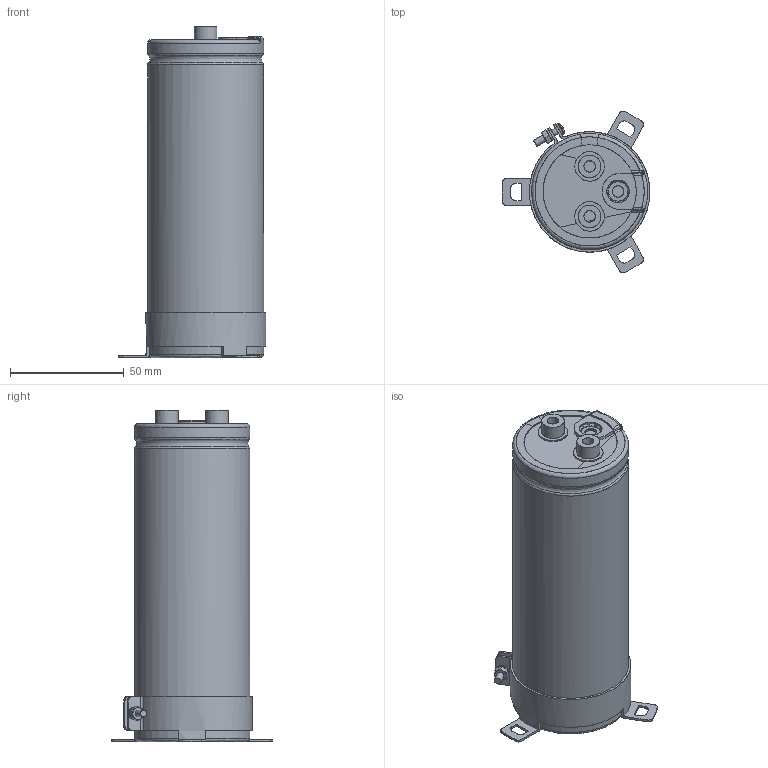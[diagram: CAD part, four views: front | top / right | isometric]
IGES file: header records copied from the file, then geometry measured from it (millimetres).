
Start section: JAMA-IS VERSION  1.0
Bounding box: 65 x 71.22 x 146 mm (x, y, z)
Surface area: 81483.3 mm2 (no closed solid volume)
Topology: 0 solids, 0 shells, 298 faces, 4625 edges, 4595 vertices
Faces by surface type: bspline 298
